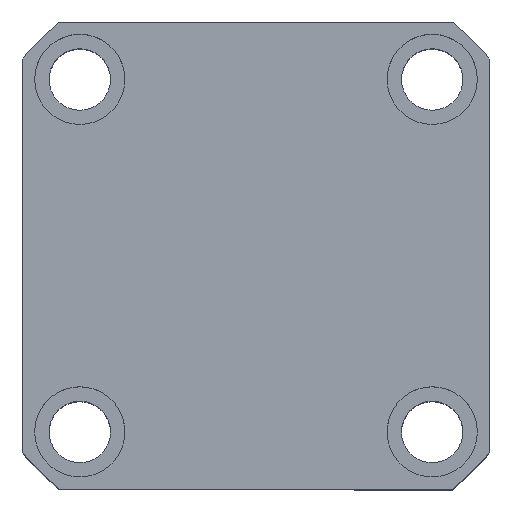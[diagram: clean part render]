
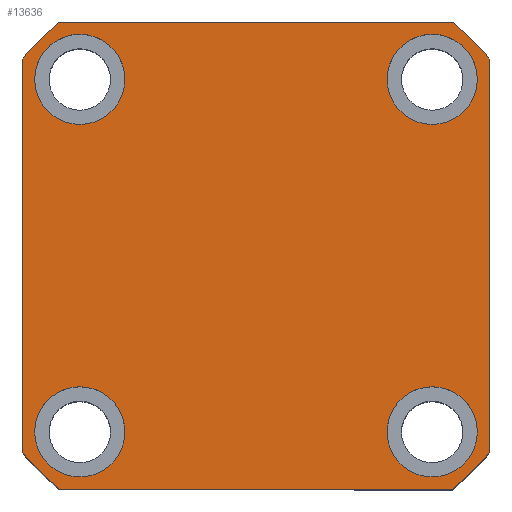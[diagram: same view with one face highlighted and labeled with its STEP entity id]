
A CAD part, top view. The second image highlights one B-rep face of the part: STEP entity #13636.
In plain terms, the highlighted planar face has unit normal (0, 0, 1) as drawn and (0, 0, -1) by its records, which use the part's own axes.
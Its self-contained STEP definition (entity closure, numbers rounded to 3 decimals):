
#207 = VECTOR ( 'NONE', #16600, 1000. ) ;
#326 = EDGE_CURVE ( 'NONE', #8654, #9700, #4419, .T. ) ;
#346 = VERTEX_POINT ( 'NONE', #16293 ) ;
#353 = DIRECTION ( 'NONE',  ( -1., 0., 0. ) ) ;
#821 = CARTESIAN_POINT ( 'NONE',  ( -57., 57., 0. ) ) ;
#1218 = ORIENTED_EDGE ( 'NONE', *, *, #20294, .F. ) ;
#1355 = CARTESIAN_POINT ( 'NONE',  ( -54., 43., 0. ) ) ;
#1456 = DIRECTION ( 'NONE',  ( -1., 0., 0. ) ) ;
#1529 = AXIS2_PLACEMENT_3D ( 'NONE', #17788, #17914, #18260 ) ;
#1572 = VERTEX_POINT ( 'NONE', #10745 ) ;
#1731 = EDGE_CURVE ( 'NONE', #1572, #9188, #16830, .T. ) ;
#1921 = ORIENTED_EDGE ( 'NONE', *, *, #12789, .F. ) ;
#1977 = VERTEX_POINT ( 'NONE', #13190 ) ;
#2191 = EDGE_CURVE ( 'NONE', #9188, #1572, #2225, .T. ) ;
#2225 = CIRCLE ( 'NONE', #20290, 11. ) ;
#2455 = CARTESIAN_POINT ( 'NONE',  ( 43., 43., 0. ) ) ;
#2701 = EDGE_CURVE ( 'NONE', #14238, #346, #15574, .T. ) ;
#2797 = ORIENTED_EDGE ( 'NONE', *, *, #9724, .F. ) ;
#3432 = CARTESIAN_POINT ( 'NONE',  ( -57., 47.971, 0. ) ) ;
#3518 = EDGE_CURVE ( 'NONE', #10241, #11621, #5949, .T. ) ;
#3601 = EDGE_LOOP ( 'NONE', ( #7516, #8652 ) ) ;
#3975 = CARTESIAN_POINT ( 'NONE',  ( 32., -43., 0. ) ) ;
#4026 = DIRECTION ( 'NONE',  ( -1., 0., 0. ) ) ;
#4082 = VERTEX_POINT ( 'NONE', #11948 ) ;
#4237 = AXIS2_PLACEMENT_3D ( 'NONE', #7331, #18359, #8937 ) ;
#4397 = CIRCLE ( 'NONE', #9040, 11. ) ;
#4419 = LINE ( 'NONE', #17095, #207 ) ;
#4421 = AXIS2_PLACEMENT_3D ( 'NONE', #13761, #13922, #14187 ) ;
#4526 = AXIS2_PLACEMENT_3D ( 'NONE', #20355, #10949, #1456 ) ;
#4536 = DIRECTION ( 'NONE',  ( 1., 0., 0. ) ) ;
#4858 = EDGE_CURVE ( 'NONE', #17462, #8654, #14321, .T. ) ;
#5068 = VECTOR ( 'NONE', #6061, 1000. ) ;
#5093 = ORIENTED_EDGE ( 'NONE', *, *, #8848, .F. ) ;
#5175 = AXIS2_PLACEMENT_3D ( 'NONE', #5572, #16603, #7186 ) ;
#5537 = AXIS2_PLACEMENT_3D ( 'NONE', #16049, #6631, #17656 ) ;
#5572 = CARTESIAN_POINT ( 'NONE',  ( 0., 0., 0. ) ) ;
#5851 = LINE ( 'NONE', #821, #9601 ) ;
#5949 = CIRCLE ( 'NONE', #15922, 74.5 ) ;
#6061 = DIRECTION ( 'NONE',  ( 0., 1., 0. ) ) ;
#6198 = EDGE_CURVE ( 'NONE', #4082, #11884, #4397, .T. ) ;
#6461 = ORIENTED_EDGE ( 'NONE', *, *, #10696, .F. ) ;
#6631 = DIRECTION ( 'NONE',  ( 0., 0., 1. ) ) ;
#7075 = CIRCLE ( 'NONE', #16136, 11. ) ;
#7109 = FACE_OUTER_BOUND ( 'NONE', #9617, .T. ) ;
#7114 = CARTESIAN_POINT ( 'NONE',  ( 43., -43., 0. ) ) ;
#7186 = DIRECTION ( 'NONE',  ( 1., 0., 0. ) ) ;
#7331 = CARTESIAN_POINT ( 'NONE',  ( 43., -43., 0. ) ) ;
#7456 = AXIS2_PLACEMENT_3D ( 'NONE', #19293, #9864, #353 ) ;
#7516 = ORIENTED_EDGE ( 'NONE', *, *, #2701, .F. ) ;
#7553 = CARTESIAN_POINT ( 'NONE',  ( 0., 0., 0. ) ) ;
#7677 = CARTESIAN_POINT ( 'NONE',  ( 0., 0., 0. ) ) ;
#7683 = VERTEX_POINT ( 'NONE', #3975 ) ;
#7740 = CARTESIAN_POINT ( 'NONE',  ( -43., 43., 0. ) ) ;
#7849 = ORIENTED_EDGE ( 'NONE', *, *, #4858, .F. ) ;
#7861 = CARTESIAN_POINT ( 'NONE',  ( 0., 0., 0. ) ) ;
#7944 = DIRECTION ( 'NONE',  ( -1., 0., 0. ) ) ;
#8371 = EDGE_CURVE ( 'NONE', #346, #14238, #19923, .T. ) ;
#8504 = CARTESIAN_POINT ( 'NONE',  ( 47.971, 57., 0. ) ) ;
#8652 = ORIENTED_EDGE ( 'NONE', *, *, #8371, .F. ) ;
#8654 = VERTEX_POINT ( 'NONE', #3432 ) ;
#8667 = DIRECTION ( 'NONE',  ( 0., 0., -1. ) ) ;
#8704 = DIRECTION ( 'NONE',  ( -1., 0., 0. ) ) ;
#8848 = EDGE_CURVE ( 'NONE', #9700, #1977, #9109, .T. ) ;
#8857 = CARTESIAN_POINT ( 'NONE',  ( -47.971, 57., 0. ) ) ;
#8937 = DIRECTION ( 'NONE',  ( -1., 0., 0. ) ) ;
#9040 = AXIS2_PLACEMENT_3D ( 'NONE', #2455, #13509, #4026 ) ;
#9109 = CIRCLE ( 'NONE', #5175, 74.5 ) ;
#9157 = CARTESIAN_POINT ( 'NONE',  ( 57., -47.971, 0. ) ) ;
#9161 = DIRECTION ( 'NONE',  ( 1., 0., 0. ) ) ;
#9188 = VERTEX_POINT ( 'NONE', #1355 ) ;
#9326 = LINE ( 'NONE', #15499, #5068 ) ;
#9370 = EDGE_LOOP ( 'NONE', ( #11620, #20497 ) ) ;
#9469 = DIRECTION ( 'NONE',  ( 1., 0., 0. ) ) ;
#9601 = VECTOR ( 'NONE', #10249, 1000. ) ;
#9617 = EDGE_LOOP ( 'NONE', ( #14912, #11377, #1921, #2797, #5093, #11380, #7849, #14526 ) ) ;
#9700 = VERTEX_POINT ( 'NONE', #15072 ) ;
#9723 = CARTESIAN_POINT ( 'NONE',  ( 47.971, -57., 0. ) ) ;
#9724 = EDGE_CURVE ( 'NONE', #1977, #16351, #14696, .T. ) ;
#9864 = DIRECTION ( 'NONE',  ( 0., 0., -1. ) ) ;
#9926 = CARTESIAN_POINT ( 'NONE',  ( -54., -43., 0. ) ) ;
#10241 = VERTEX_POINT ( 'NONE', #14910 ) ;
#10249 = DIRECTION ( 'NONE',  ( -1., 0., 0. ) ) ;
#10332 = EDGE_LOOP ( 'NONE', ( #1218, #20358 ) ) ;
#10421 = DIRECTION ( 'NONE',  ( 1., 0., 0. ) ) ;
#10473 = VERTEX_POINT ( 'NONE', #12257 ) ;
#10554 = VECTOR ( 'NONE', #10421, 1000. ) ;
#10696 = EDGE_CURVE ( 'NONE', #11884, #4082, #11836, .T. ) ;
#10745 = CARTESIAN_POINT ( 'NONE',  ( -32., 43., 0. ) ) ;
#10833 = FACE_BOUND ( 'NONE', #9370, .T. ) ;
#10949 = DIRECTION ( 'NONE',  ( 0., 0., -1. ) ) ;
#11053 = AXIS2_PLACEMENT_3D ( 'NONE', #7677, #13997, #4536 ) ;
#11377 = ORIENTED_EDGE ( 'NONE', *, *, #20454, .F. ) ;
#11380 = ORIENTED_EDGE ( 'NONE', *, *, #326, .F. ) ;
#11567 = CIRCLE ( 'NONE', #11808, 74.5 ) ;
#11620 = ORIENTED_EDGE ( 'NONE', *, *, #2191, .F. ) ;
#11621 = VERTEX_POINT ( 'NONE', #8504 ) ;
#11808 = AXIS2_PLACEMENT_3D ( 'NONE', #7553, #18580, #9161 ) ;
#11836 = CIRCLE ( 'NONE', #7456, 11. ) ;
#11884 = VERTEX_POINT ( 'NONE', #15438 ) ;
#11948 = CARTESIAN_POINT ( 'NONE',  ( 32., 43., 0. ) ) ;
#12257 = CARTESIAN_POINT ( 'NONE',  ( 54., -43., 0. ) ) ;
#12600 = ORIENTED_EDGE ( 'NONE', *, *, #6198, .F. ) ;
#12789 = EDGE_CURVE ( 'NONE', #16351, #16336, #11567, .T. ) ;
#13190 = CARTESIAN_POINT ( 'NONE',  ( -47.971, -57., 0. ) ) ;
#13509 = DIRECTION ( 'NONE',  ( 0., 0., -1. ) ) ;
#13636 = ADVANCED_FACE ( 'NONE', ( #19199, #15483, #14973, #10833, #7109 ), #20267, .F. ) ;
#13761 = CARTESIAN_POINT ( 'NONE',  ( -43., 43., 0. ) ) ;
#13911 = CIRCLE ( 'NONE', #4237, 11. ) ;
#13922 = DIRECTION ( 'NONE',  ( 0., 0., -1. ) ) ;
#13997 = DIRECTION ( 'NONE',  ( 0., 0., 1. ) ) ;
#14187 = DIRECTION ( 'NONE',  ( -1., 0., 0. ) ) ;
#14238 = VERTEX_POINT ( 'NONE', #9926 ) ;
#14321 = CIRCLE ( 'NONE', #5537, 74.5 ) ;
#14438 = EDGE_CURVE ( 'NONE', #11621, #17462, #5851, .T. ) ;
#14526 = ORIENTED_EDGE ( 'NONE', *, *, #14438, .F. ) ;
#14696 = LINE ( 'NONE', #18262, #10554 ) ;
#14910 = CARTESIAN_POINT ( 'NONE',  ( 57., 47.971, 0. ) ) ;
#14912 = ORIENTED_EDGE ( 'NONE', *, *, #3518, .F. ) ;
#14973 = FACE_BOUND ( 'NONE', #15978, .T. ) ;
#15072 = CARTESIAN_POINT ( 'NONE',  ( -57., -47.971, 0. ) ) ;
#15438 = CARTESIAN_POINT ( 'NONE',  ( 54., 43., 0. ) ) ;
#15483 = FACE_BOUND ( 'NONE', #10332, .T. ) ;
#15499 = CARTESIAN_POINT ( 'NONE',  ( 57., 57., 0. ) ) ;
#15574 = CIRCLE ( 'NONE', #1529, 11. ) ;
#15922 = AXIS2_PLACEMENT_3D ( 'NONE', #7861, #18875, #9469 ) ;
#15978 = EDGE_LOOP ( 'NONE', ( #12600, #6461 ) ) ;
#16049 = CARTESIAN_POINT ( 'NONE',  ( 0., 0., 0. ) ) ;
#16136 = AXIS2_PLACEMENT_3D ( 'NONE', #7114, #18130, #8704 ) ;
#16293 = CARTESIAN_POINT ( 'NONE',  ( -32., -43., 0. ) ) ;
#16336 = VERTEX_POINT ( 'NONE', #9157 ) ;
#16351 = VERTEX_POINT ( 'NONE', #9723 ) ;
#16600 = DIRECTION ( 'NONE',  ( 0., -1., 0. ) ) ;
#16603 = DIRECTION ( 'NONE',  ( 0., 0., 1. ) ) ;
#16830 = CIRCLE ( 'NONE', #4421, 11. ) ;
#17095 = CARTESIAN_POINT ( 'NONE',  ( -57., 57., 0. ) ) ;
#17462 = VERTEX_POINT ( 'NONE', #8857 ) ;
#17656 = DIRECTION ( 'NONE',  ( 1., 0., 0. ) ) ;
#17788 = CARTESIAN_POINT ( 'NONE',  ( -43., -43., 0. ) ) ;
#17914 = DIRECTION ( 'NONE',  ( 0., 0., -1. ) ) ;
#18130 = DIRECTION ( 'NONE',  ( 0., 0., -1. ) ) ;
#18260 = DIRECTION ( 'NONE',  ( -1., 0., 0. ) ) ;
#18262 = CARTESIAN_POINT ( 'NONE',  ( -57., -57., 0. ) ) ;
#18359 = DIRECTION ( 'NONE',  ( 0., 0., -1. ) ) ;
#18580 = DIRECTION ( 'NONE',  ( 0., 0., 1. ) ) ;
#18875 = DIRECTION ( 'NONE',  ( 0., 0., 1. ) ) ;
#19199 = FACE_BOUND ( 'NONE', #3601, .T. ) ;
#19247 = EDGE_CURVE ( 'NONE', #10473, #7683, #13911, .T. ) ;
#19293 = CARTESIAN_POINT ( 'NONE',  ( 43., 43., 0. ) ) ;
#19923 = CIRCLE ( 'NONE', #4526, 11. ) ;
#20267 = PLANE ( 'NONE',  #11053 ) ;
#20290 = AXIS2_PLACEMENT_3D ( 'NONE', #7740, #8667, #7944 ) ;
#20294 = EDGE_CURVE ( 'NONE', #7683, #10473, #7075, .T. ) ;
#20355 = CARTESIAN_POINT ( 'NONE',  ( -43., -43., 0. ) ) ;
#20358 = ORIENTED_EDGE ( 'NONE', *, *, #19247, .F. ) ;
#20454 = EDGE_CURVE ( 'NONE', #16336, #10241, #9326, .T. ) ;
#20497 = ORIENTED_EDGE ( 'NONE', *, *, #1731, .F. ) ;
